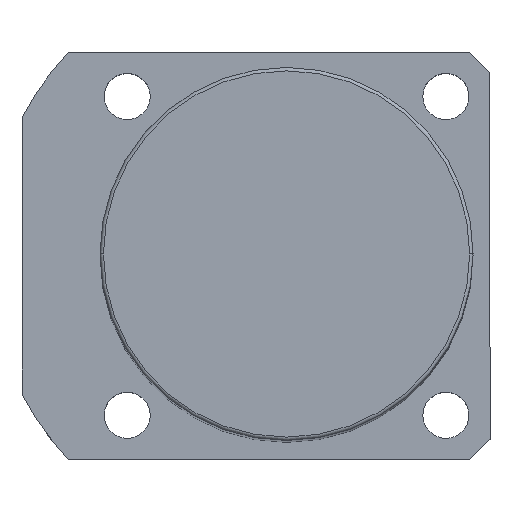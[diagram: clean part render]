
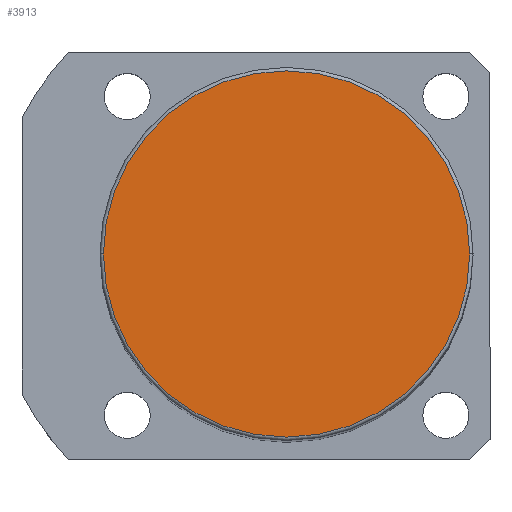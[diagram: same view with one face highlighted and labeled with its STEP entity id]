
A CAD part, top view. The second image highlights one B-rep face of the part: STEP entity #3913.
In plain terms, the highlighted planar face has unit normal (0, 0, 1).
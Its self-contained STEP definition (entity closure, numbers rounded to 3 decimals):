
#58 = ORIENTED_EDGE ( 'NONE', *, *, #1647, .T. ) ;
#842 = CIRCLE ( 'NONE', #4146, 27. ) ;
#1089 = ORIENTED_EDGE ( 'NONE', *, *, #3254, .T. ) ;
#1148 = CARTESIAN_POINT ( 'NONE',  ( 0., 0., 171. ) ) ;
#1402 = CARTESIAN_POINT ( 'NONE',  ( -27., 0., 171. ) ) ;
#1489 = VERTEX_POINT ( 'NONE', #1402 ) ;
#1540 = DIRECTION ( 'NONE',  ( 1., 0., 0. ) ) ;
#1647 = EDGE_CURVE ( 'NONE', #1489, #2376, #4892, .T. ) ;
#1887 = FACE_OUTER_BOUND ( 'NONE', #2183, .T. ) ;
#2183 = EDGE_LOOP ( 'NONE', ( #1089, #58 ) ) ;
#2277 = CARTESIAN_POINT ( 'NONE',  ( 0., 0., 171. ) ) ;
#2376 = VERTEX_POINT ( 'NONE', #4360 ) ;
#2547 = AXIS2_PLACEMENT_3D ( 'NONE', #3348, #4950, #2572 ) ;
#2572 = DIRECTION ( 'NONE',  ( 1., 0., 0. ) ) ;
#2685 = DIRECTION ( 'NONE',  ( 1., 0., 0. ) ) ;
#3254 = EDGE_CURVE ( 'NONE', #2376, #1489, #842, .T. ) ;
#3348 = CARTESIAN_POINT ( 'NONE',  ( 0., 0., 171. ) ) ;
#3913 = ADVANCED_FACE ( 'NONE', ( #1887 ), #4550, .T. ) ;
#3915 = DIRECTION ( 'NONE',  ( 0., 0., 1. ) ) ;
#4146 = AXIS2_PLACEMENT_3D ( 'NONE', #1148, #3915, #1540 ) ;
#4353 = AXIS2_PLACEMENT_3D ( 'NONE', #2277, #5075, #2685 ) ;
#4360 = CARTESIAN_POINT ( 'NONE',  ( 27., 0., 171. ) ) ;
#4550 = PLANE ( 'NONE',  #2547 ) ;
#4892 = CIRCLE ( 'NONE', #4353, 27. ) ;
#4950 = DIRECTION ( 'NONE',  ( 0., 0., 1. ) ) ;
#5075 = DIRECTION ( 'NONE',  ( 0., 0., 1. ) ) ;
